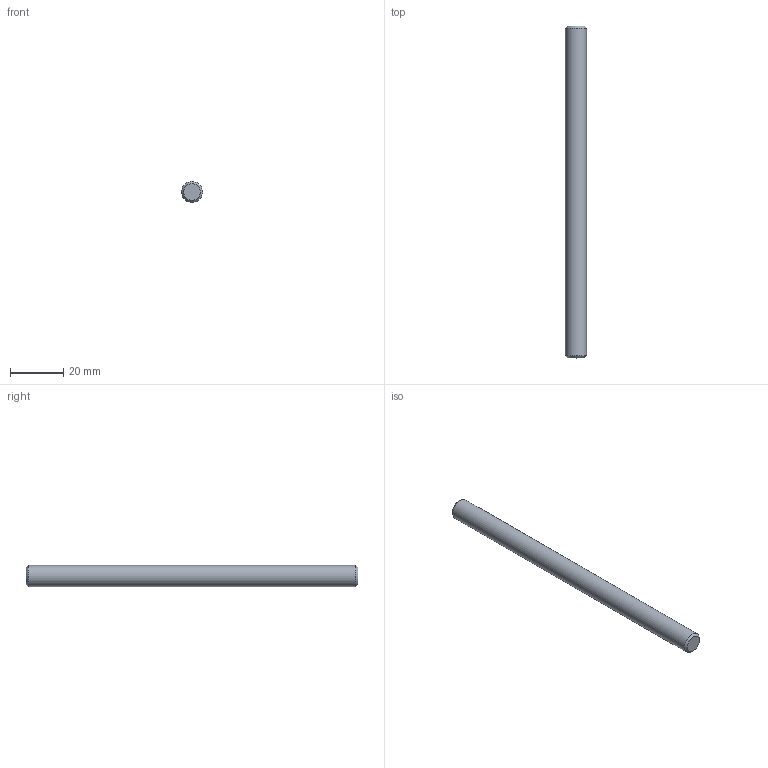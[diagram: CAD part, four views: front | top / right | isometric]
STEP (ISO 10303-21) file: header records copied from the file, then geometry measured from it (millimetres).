
FILE_DESCRIPTION(/* description */ (''),/* implementation_level */ '2;1');
FILE_NAME(/* name */ 'WHEELS-INSERT.24.stp',/* time_stamp */ '2018-05-25T14:27:44+02:00',/* author */ (''),/* organization */ (''),/* preprocessor_version */ 'ST-DEVELOPER v16.7',/* originating_system */ 'SIEMENS PLM Software NX 12.0',/* authorisation */ '');
FILE_SCHEMA (('AP203_CONFIGURATION_CONTROLLED_3D_DESIGN_OF_MECHANICAL_PARTS_AND_ASSEMBLIES_MIM_LF { 1 0 10303 403 2 1 2}'));
Length unit declared in the file: millimetre
Products named in the file (1): turc66A81BAD9zhe
Bounding box: 8 x 125 x 8 mm (x, y, z)
Volume: 6268.2 mm3; surface area: 3216.9 mm2
Topology: 1 solids, 1 shells, 5 faces, 8 edges, 5 vertices
Faces by surface type: plane 2, cone 2, cylinder 1
Full cylindrical faces by diameter (mm): 8 x1
Entity records: 196 total; most frequent: DIRECTION 20, CARTESIAN_POINT 14, AXIS2_PLACEMENT_3D 10, EDGE_LOOP 8, ORIENTED_EDGE 8, PERSON_AND_ORGANIZATION 7, ORGANIZATION 7, FACE_BOUND 6
